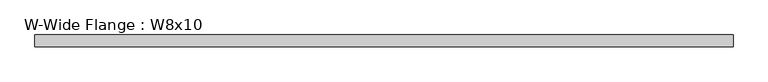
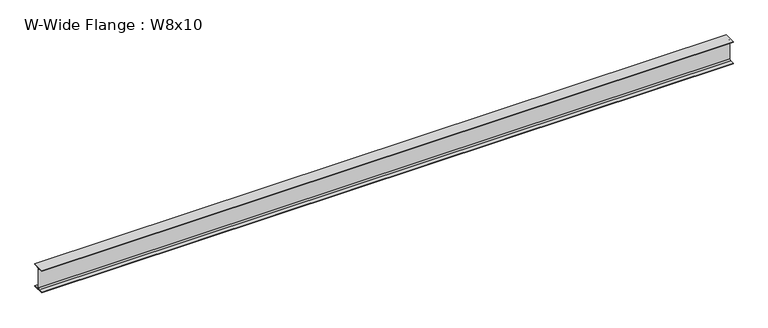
"""IFC4 building model written with IfcOpenShell, lengths in millimetres: beam geometry, W-Wide Flange : W8x10."""

from ifc_helpers import new_model, si_unit, point, frame, frame_2d, origin, place, context, project, spatial, polyline, circle_curve, trimmed, segment, composite_curve, outline, extrude, source, transform, mapped, element, save


def w_wide_flange_w8x10_a9415ded(model_context):
    return source(origin(), model_context, "Body", "SweptSolid", [
        extrude(outline(composite_curve([segment(polyline([(50.038, -94.996), (50.038, -100.203), (-50.038, -100.203), (-50.038, -94.996), (-14.4145, -94.996)]), True, "CONTINUOUS"), segment(trimmed(circle_curve(frame_2d((-14.4145, -82.7405)), 12.2555), [point((-14.4145, -94.996))], [point((-2.159, -82.7405))], True, "CARTESIAN"), True, "CONTINUOUS"), segment(polyline([(-2.159, -82.7405), (-2.159, 82.7405)]), True, "CONTINUOUS"), segment(trimmed(circle_curve(frame_2d((-14.4145, 82.7405)), 12.2555), [point((-2.159, 82.7405))], [point((-14.4145, 94.996))], True, "CARTESIAN"), True, "CONTINUOUS"), segment(polyline([(-14.4145, 94.996), (-50.038, 94.996), (-50.038, 100.203), (50.038, 100.203), (50.038, 94.996), (14.4145, 94.996)]), True, "CONTINUOUS"), segment(trimmed(circle_curve(frame_2d((14.4145, 82.7405)), 12.2555), [point((14.4145, 94.996))], [point((2.159, 82.7405))], True, "CARTESIAN"), True, "CONTINUOUS"), segment(polyline([(2.159, 82.7405), (2.159, -82.7405)]), True, "CONTINUOUS"), segment(trimmed(circle_curve(frame_2d((14.4145, -82.7405)), 12.2555), [point((2.159, -82.7405))], [point((14.4145, -94.996))], True, "CARTESIAN"), True, "CONTINUOUS"), segment(polyline([(14.4145, -94.996), (50.038, -94.996)]), True, "CONTINUOUS")], self_intersect=False)), frame((-2985.262, 0.0, 0.0), z_axis=(1.0, 0.0, 0.0), x_axis=(0.0, 1.0, 0.0)), (0.0, 0.0, 1.0), 5887.212),
    ])


if __name__ == "__main__":
    model = new_model("IFC4")
    model_context = context("Model", 3, world=origin())
    ifc_project = project(units=[si_unit("LENGTHUNIT", "METRE", prefix="MILLI")], contexts=[model_context])
    site = spatial("IfcSite", under=ifc_project)
    building = spatial("IfcBuilding", under=site)
    placement = place(None, origin())
    w_wide_flange_w8x10_shape = w_wide_flange_w8x10_a9415ded(model_context)
    element("IfcBeam", 1, ObjectType="W-Wide Flange : W8x10", at=placement, inside=building, context=model_context, shape_type="MappedRepresentation", body=[
        mapped(w_wide_flange_w8x10_shape, transform((0.0, 0.0, 0.0), x_axis=(1.0, 0.0, 0.0), y_axis=(0.0, 1.0, 0.0), z_axis=(0.0, 0.0, 1.0))),
    ])
    save(model, "model.ifc")
